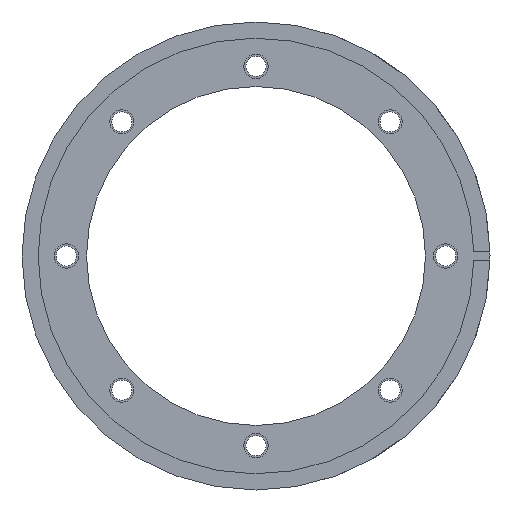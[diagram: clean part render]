
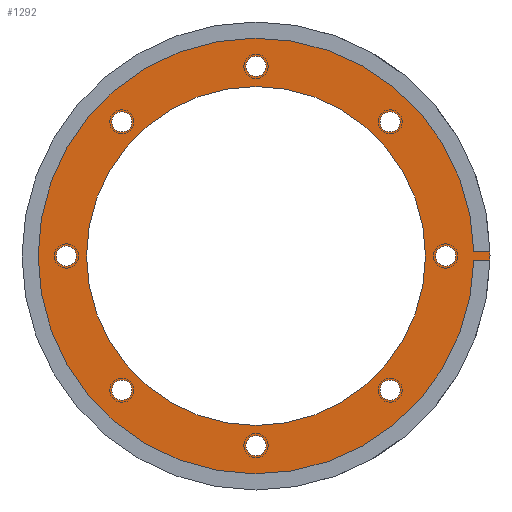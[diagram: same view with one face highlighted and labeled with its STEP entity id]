
A CAD part, front view. The second image highlights one B-rep face of the part: STEP entity #1292.
In plain terms, the highlighted planar face has unit normal (0, -1, 0).
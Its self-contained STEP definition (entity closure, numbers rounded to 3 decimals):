
#480=CARTESIAN_POINT('',(0.,-3.,0.));
#481=DIRECTION('',(0.,1.,0.));
#482=DIRECTION('',(1.,0.,0.017));
#483=AXIS2_PLACEMENT_3D('',#480,#481,#482);
#563=DIRECTION('',(1.,0.,0.));
#564=VECTOR('',#563,2.);
#565=CARTESIAN_POINT('',(26.995,-3.,0.5));
#566=LINE('',#565,#564);
#570=DIRECTION('',(1.,0.,0.));
#571=VECTOR('',#570,2.);
#572=CARTESIAN_POINT('',(26.995,-3.,-0.5));
#573=LINE('',#572,#571);
#577=CARTESIAN_POINT('',(-23.5,-3.,0.));
#578=DIRECTION('',(0.,1.,0.));
#579=DIRECTION('',(1.,0.,0.));
#580=AXIS2_PLACEMENT_3D('',#577,#578,#579);
#585=CARTESIAN_POINT('',(-23.5,-3.,0.));
#586=DIRECTION('',(0.,1.,0.));
#587=DIRECTION('',(-1.,0.,0.));
#588=AXIS2_PLACEMENT_3D('',#585,#586,#587);
#593=CARTESIAN_POINT('',(-16.617,-3.,-16.617));
#594=DIRECTION('',(0.,1.,0.));
#595=DIRECTION('',(0.707,0.,0.707));
#596=AXIS2_PLACEMENT_3D('',#593,#594,#595);
#601=CARTESIAN_POINT('',(-16.617,-3.,-16.617));
#602=DIRECTION('',(0.,1.,0.));
#603=DIRECTION('',(-0.707,0.,-0.707));
#604=AXIS2_PLACEMENT_3D('',#601,#602,#603);
#609=CARTESIAN_POINT('',(0.,-3.,-23.5));
#610=DIRECTION('',(0.,1.,0.));
#611=DIRECTION('',(0.,0.,1.));
#612=AXIS2_PLACEMENT_3D('',#609,#610,#611);
#617=CARTESIAN_POINT('',(0.,-3.,-23.5));
#618=DIRECTION('',(0.,1.,0.));
#619=DIRECTION('',(0.,0.,-1.));
#620=AXIS2_PLACEMENT_3D('',#617,#618,#619);
#625=CARTESIAN_POINT('',(16.617,-3.,-16.617));
#626=DIRECTION('',(0.,1.,0.));
#627=DIRECTION('',(-0.707,0.,0.707));
#628=AXIS2_PLACEMENT_3D('',#625,#626,#627);
#633=CARTESIAN_POINT('',(16.617,-3.,-16.617));
#634=DIRECTION('',(0.,1.,0.));
#635=DIRECTION('',(0.707,0.,-0.707));
#636=AXIS2_PLACEMENT_3D('',#633,#634,#635);
#641=CARTESIAN_POINT('',(23.5,-3.,0.));
#642=DIRECTION('',(0.,1.,0.));
#643=DIRECTION('',(-1.,0.,0.));
#644=AXIS2_PLACEMENT_3D('',#641,#642,#643);
#649=CARTESIAN_POINT('',(23.5,-3.,0.));
#650=DIRECTION('',(0.,1.,0.));
#651=DIRECTION('',(1.,0.,0.));
#652=AXIS2_PLACEMENT_3D('',#649,#650,#651);
#657=CARTESIAN_POINT('',(16.617,-3.,16.617));
#658=DIRECTION('',(0.,1.,0.));
#659=DIRECTION('',(-0.707,0.,-0.707));
#660=AXIS2_PLACEMENT_3D('',#657,#658,#659);
#665=CARTESIAN_POINT('',(16.617,-3.,16.617));
#666=DIRECTION('',(0.,1.,0.));
#667=DIRECTION('',(0.707,0.,0.707));
#668=AXIS2_PLACEMENT_3D('',#665,#666,#667);
#673=CARTESIAN_POINT('',(0.,-3.,23.5));
#674=DIRECTION('',(0.,1.,0.));
#675=DIRECTION('',(0.,0.,-1.));
#676=AXIS2_PLACEMENT_3D('',#673,#674,#675);
#681=CARTESIAN_POINT('',(0.,-3.,23.5));
#682=DIRECTION('',(0.,1.,0.));
#683=DIRECTION('',(0.,0.,1.));
#684=AXIS2_PLACEMENT_3D('',#681,#682,#683);
#689=CARTESIAN_POINT('',(-16.617,-3.,16.617));
#690=DIRECTION('',(0.,1.,0.));
#691=DIRECTION('',(0.707,0.,-0.707));
#692=AXIS2_PLACEMENT_3D('',#689,#690,#691);
#697=CARTESIAN_POINT('',(-16.617,-3.,16.617));
#698=DIRECTION('',(0.,1.,0.));
#699=DIRECTION('',(-0.707,0.,0.707));
#700=AXIS2_PLACEMENT_3D('',#697,#698,#699);
#705=CARTESIAN_POINT('',(0.,-3.,0.));
#706=DIRECTION('',(0.,-1.,0.));
#707=DIRECTION('',(1.,0.,0.));
#708=AXIS2_PLACEMENT_3D('',#705,#706,#707);
#713=CARTESIAN_POINT('',(0.,-3.,0.));
#714=DIRECTION('',(0.,-1.,0.));
#715=DIRECTION('',(-1.,0.,0.));
#716=AXIS2_PLACEMENT_3D('',#713,#714,#715);
#736=CARTESIAN_POINT('',(0.,-3.,0.));
#737=DIRECTION('',(0.,-1.,0.));
#738=DIRECTION('',(1.,0.,0.019));
#739=AXIS2_PLACEMENT_3D('',#736,#737,#738);
#916=CARTESIAN_POINT('',(28.996,-3.,-0.5));
#918=VERTEX_POINT('',#916);
#919=CARTESIAN_POINT('',(28.996,-3.,0.5));
#920=VERTEX_POINT('',#919);
#927=CARTESIAN_POINT('',(26.995,-3.,-0.5));
#928=VERTEX_POINT('',#927);
#929=CARTESIAN_POINT('',(26.995,-3.,0.5));
#930=VERTEX_POINT('',#929);
#935=CARTESIAN_POINT('',(-22.25,-3.,0.));
#936=CARTESIAN_POINT('',(-24.75,-3.,0.));
#937=VERTEX_POINT('',#935);
#938=VERTEX_POINT('',#936);
#943=CARTESIAN_POINT('',(-15.733,-3.,-15.733));
#944=CARTESIAN_POINT('',(-17.501,-3.,-17.501));
#945=VERTEX_POINT('',#943);
#946=VERTEX_POINT('',#944);
#951=CARTESIAN_POINT('',(0.,-3.,-22.25));
#952=CARTESIAN_POINT('',(0.,-3.,-24.75));
#953=VERTEX_POINT('',#951);
#954=VERTEX_POINT('',#952);
#959=CARTESIAN_POINT('',(15.733,-3.,-15.733));
#960=CARTESIAN_POINT('',(17.501,-3.,-17.501));
#961=VERTEX_POINT('',#959);
#962=VERTEX_POINT('',#960);
#967=CARTESIAN_POINT('',(22.25,-3.,0.));
#968=CARTESIAN_POINT('',(24.75,-3.,0.));
#969=VERTEX_POINT('',#967);
#970=VERTEX_POINT('',#968);
#975=CARTESIAN_POINT('',(15.733,-3.,15.733));
#976=CARTESIAN_POINT('',(17.501,-3.,17.501));
#977=VERTEX_POINT('',#975);
#978=VERTEX_POINT('',#976);
#983=CARTESIAN_POINT('',(0.,-3.,22.25));
#984=CARTESIAN_POINT('',(0.,-3.,24.75));
#985=VERTEX_POINT('',#983);
#986=VERTEX_POINT('',#984);
#991=CARTESIAN_POINT('',(-15.733,-3.,15.733));
#992=CARTESIAN_POINT('',(-17.501,-3.,17.501));
#993=VERTEX_POINT('',#991);
#994=VERTEX_POINT('',#992);
#995=CARTESIAN_POINT('',(21.,-3.,0.));
#996=CARTESIAN_POINT('',(-21.,-3.,0.));
#997=VERTEX_POINT('',#995);
#998=VERTEX_POINT('',#996);
#1226=CARTESIAN_POINT('',(0.,-3.,0.));
#1227=DIRECTION('',(0.,1.,0.));
#1228=DIRECTION('',(0.,0.,-1.));
#1229=AXIS2_PLACEMENT_3D('',#1226,#1227,#1228);
#1230=PLANE('',#1229);
#1232=ORIENTED_EDGE('',*,*,#1231,.F.);
#1233=ORIENTED_EDGE('',*,*,#1206,.T.);
#1234=ORIENTED_EDGE('',*,*,#1092,.T.);
#1235=ORIENTED_EDGE('',*,*,#1130,.F.);
#1236=EDGE_LOOP('',(#1232,#1233,#1234,#1235));
#1237=FACE_OUTER_BOUND('',#1236,.F.);
#1239=ORIENTED_EDGE('',*,*,#1238,.F.);
#1241=ORIENTED_EDGE('',*,*,#1240,.F.);
#1242=EDGE_LOOP('',(#1239,#1241));
#1243=FACE_BOUND('',#1242,.F.);
#1245=ORIENTED_EDGE('',*,*,#1244,.F.);
#1247=ORIENTED_EDGE('',*,*,#1246,.F.);
#1248=EDGE_LOOP('',(#1245,#1247));
#1249=FACE_BOUND('',#1248,.F.);
#1251=ORIENTED_EDGE('',*,*,#1250,.F.);
#1253=ORIENTED_EDGE('',*,*,#1252,.F.);
#1254=EDGE_LOOP('',(#1251,#1253));
#1255=FACE_BOUND('',#1254,.F.);
#1257=ORIENTED_EDGE('',*,*,#1256,.F.);
#1259=ORIENTED_EDGE('',*,*,#1258,.F.);
#1260=EDGE_LOOP('',(#1257,#1259));
#1261=FACE_BOUND('',#1260,.F.);
#1263=ORIENTED_EDGE('',*,*,#1262,.F.);
#1265=ORIENTED_EDGE('',*,*,#1264,.F.);
#1266=EDGE_LOOP('',(#1263,#1265));
#1267=FACE_BOUND('',#1266,.F.);
#1269=ORIENTED_EDGE('',*,*,#1268,.F.);
#1271=ORIENTED_EDGE('',*,*,#1270,.F.);
#1272=EDGE_LOOP('',(#1269,#1271));
#1273=FACE_BOUND('',#1272,.F.);
#1275=ORIENTED_EDGE('',*,*,#1274,.F.);
#1277=ORIENTED_EDGE('',*,*,#1276,.F.);
#1278=EDGE_LOOP('',(#1275,#1277));
#1279=FACE_BOUND('',#1278,.F.);
#1281=ORIENTED_EDGE('',*,*,#1280,.F.);
#1283=ORIENTED_EDGE('',*,*,#1282,.F.);
#1284=EDGE_LOOP('',(#1281,#1283));
#1285=FACE_BOUND('',#1284,.F.);
#1287=ORIENTED_EDGE('',*,*,#1286,.T.);
#1289=ORIENTED_EDGE('',*,*,#1288,.T.);
#1290=EDGE_LOOP('',(#1287,#1289));
#1291=FACE_BOUND('',#1290,.F.);
#484=CIRCLE('',#483,29.);
#581=CIRCLE('',#580,1.25);
#589=CIRCLE('',#588,1.25);
#597=CIRCLE('',#596,1.25);
#605=CIRCLE('',#604,1.25);
#613=CIRCLE('',#612,1.25);
#621=CIRCLE('',#620,1.25);
#629=CIRCLE('',#628,1.25);
#637=CIRCLE('',#636,1.25);
#645=CIRCLE('',#644,1.25);
#653=CIRCLE('',#652,1.25);
#661=CIRCLE('',#660,1.25);
#669=CIRCLE('',#668,1.25);
#677=CIRCLE('',#676,1.25);
#685=CIRCLE('',#684,1.25);
#693=CIRCLE('',#692,1.25);
#701=CIRCLE('',#700,1.25);
#709=CIRCLE('',#708,21.);
#717=CIRCLE('',#716,21.);
#740=CIRCLE('',#739,27.);
#1092=EDGE_CURVE('',#920,#918,#484,.T.);
#1130=EDGE_CURVE('',#928,#918,#573,.T.);
#1206=EDGE_CURVE('',#930,#920,#566,.T.);
#1231=EDGE_CURVE('',#930,#928,#740,.T.);
#1238=EDGE_CURVE('',#937,#938,#581,.T.);
#1240=EDGE_CURVE('',#938,#937,#589,.T.);
#1244=EDGE_CURVE('',#945,#946,#597,.T.);
#1246=EDGE_CURVE('',#946,#945,#605,.T.);
#1250=EDGE_CURVE('',#953,#954,#613,.T.);
#1252=EDGE_CURVE('',#954,#953,#621,.T.);
#1256=EDGE_CURVE('',#961,#962,#629,.T.);
#1258=EDGE_CURVE('',#962,#961,#637,.T.);
#1262=EDGE_CURVE('',#969,#970,#645,.T.);
#1264=EDGE_CURVE('',#970,#969,#653,.T.);
#1268=EDGE_CURVE('',#977,#978,#661,.T.);
#1270=EDGE_CURVE('',#978,#977,#669,.T.);
#1274=EDGE_CURVE('',#985,#986,#677,.T.);
#1276=EDGE_CURVE('',#986,#985,#685,.T.);
#1280=EDGE_CURVE('',#993,#994,#693,.T.);
#1282=EDGE_CURVE('',#994,#993,#701,.T.);
#1286=EDGE_CURVE('',#997,#998,#709,.T.);
#1288=EDGE_CURVE('',#998,#997,#717,.T.);
#1292=ADVANCED_FACE('',(#1237,#1243,#1249,#1255,#1261,#1267,#1273,#1279,#1285,
#1291),#1230,.F.);
